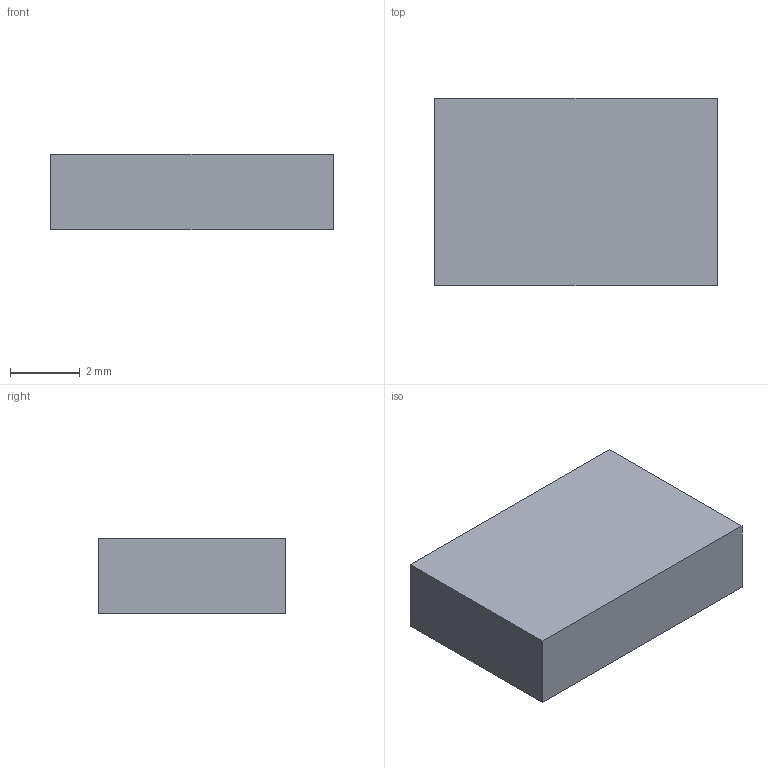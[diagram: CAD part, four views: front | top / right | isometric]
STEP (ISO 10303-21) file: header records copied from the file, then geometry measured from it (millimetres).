
FILE_DESCRIPTION(('Open CASCADE Model'),'2;1');
FILE_NAME('Open CASCADE Shape Model','2026-09-17T14:57:39',('Author'),( 'Open CASCADE'),'Open CASCADE STEP processor 7.8','Open CASCADE 7.8' ,'Unknown');
FILE_SCHEMA(('AUTOMOTIVE_DESIGN { 1 0 10303 214 1 1 1 1 }'));
Length unit declared in the file: millimetre
Products named in the file (1): Open CASCADE STEP translator 7.8 35
Bounding box: 8.1 x 5.38 x 2.16 mm (x, y, z)
Volume: 94.1 mm3; surface area: 145.4 mm2
Topology: 1 solids, 1 shells, 6 faces, 12 edges, 8 vertices
Faces by surface type: plane 6
Entity records: 322 total; most frequent: CARTESIAN_POINT 51, DIRECTION 50, LINE 36, VECTOR 36, ORIENTED_EDGE 24, PCURVE 24, DEFINITIONAL_REPRESENTATION 24, EDGE_CURVE 12
